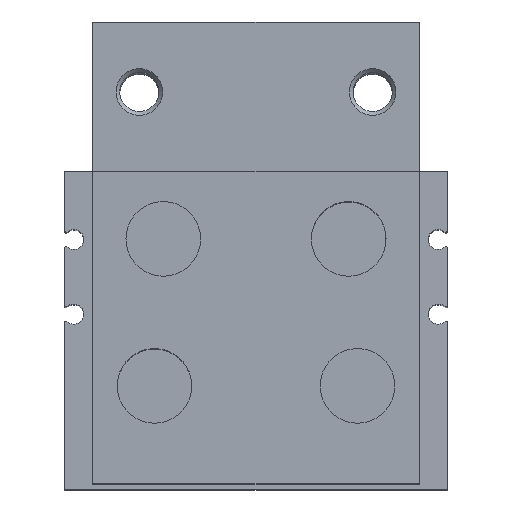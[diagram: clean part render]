
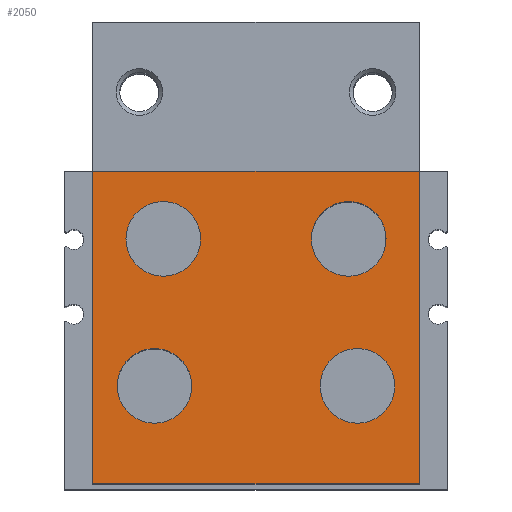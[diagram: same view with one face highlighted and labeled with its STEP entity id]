
A CAD part, top view. The second image highlights one B-rep face of the part: STEP entity #2050.
In plain terms, the highlighted planar face has unit normal (0, 0, 1).
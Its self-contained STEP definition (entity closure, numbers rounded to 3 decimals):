
#94=LINE('',#3282,#220);
#96=LINE('',#3286,#222);
#104=LINE('',#3306,#230);
#105=LINE('',#3307,#231);
#220=VECTOR('',#2569,1000.);
#222=VECTOR('',#2573,1000.);
#230=VECTOR('',#2591,1000.);
#231=VECTOR('',#2592,1000.);
#340=PLANE('',#2229);
#420=FACE_BOUND('',#672,.T.);
#421=FACE_BOUND('',#673,.T.);
#422=FACE_BOUND('',#674,.T.);
#423=FACE_BOUND('',#675,.T.);
#510=FACE_OUTER_BOUND('',#671,.T.);
#671=EDGE_LOOP('',(#1472,#1473,#1474,#1475));
#672=EDGE_LOOP('',(#1476));
#673=EDGE_LOOP('',(#1477));
#674=EDGE_LOOP('',(#1478));
#675=EDGE_LOOP('',(#1479));
#854=CIRCLE('',#2230,8.);
#855=CIRCLE('',#2231,8.);
#856=CIRCLE('',#2232,8.);
#857=CIRCLE('',#2233,8.);
#982=VERTEX_POINT('',#3279);
#983=VERTEX_POINT('',#3281);
#984=VERTEX_POINT('',#3285);
#991=VERTEX_POINT('',#3305);
#992=VERTEX_POINT('',#3308);
#993=VERTEX_POINT('',#3310);
#994=VERTEX_POINT('',#3312);
#995=VERTEX_POINT('',#3314);
#1175=EDGE_CURVE('',#983,#982,#94,.T.);
#1177=EDGE_CURVE('',#983,#984,#96,.T.);
#1187=EDGE_CURVE('',#982,#991,#104,.T.);
#1188=EDGE_CURVE('',#984,#991,#105,.T.);
#1189=EDGE_CURVE('',#992,#992,#854,.T.);
#1190=EDGE_CURVE('',#993,#993,#855,.F.);
#1191=EDGE_CURVE('',#994,#994,#856,.F.);
#1192=EDGE_CURVE('',#995,#995,#857,.T.);
#1472=ORIENTED_EDGE('',*,*,#1187,.T.);
#1473=ORIENTED_EDGE('',*,*,#1188,.F.);
#1474=ORIENTED_EDGE('',*,*,#1177,.F.);
#1475=ORIENTED_EDGE('',*,*,#1175,.T.);
#1476=ORIENTED_EDGE('',*,*,#1189,.F.);
#1477=ORIENTED_EDGE('',*,*,#1190,.F.);
#1478=ORIENTED_EDGE('',*,*,#1191,.F.);
#1479=ORIENTED_EDGE('',*,*,#1192,.F.);
#2050=ADVANCED_FACE('',(#510,#420,#421,#422,#423),#340,.F.);
#2229=AXIS2_PLACEMENT_3D('',#3304,#2589,#2590);
#2230=AXIS2_PLACEMENT_3D('',#3309,#2593,#2594);
#2231=AXIS2_PLACEMENT_3D('',#3311,#2595,#2596);
#2232=AXIS2_PLACEMENT_3D('',#3313,#2597,#2598);
#2233=AXIS2_PLACEMENT_3D('',#3315,#2599,#2600);
#2569=DIRECTION('',(1.,0.,0.));
#2573=DIRECTION('',(0.,1.,0.));
#2589=DIRECTION('center_axis',(0.,0.,
-1.));
#2590=DIRECTION('ref_axis',(1.,0.,0.));
#2591=DIRECTION('',(0.,1.,0.));
#2592=DIRECTION('',(1.,0.,0.));
#2593=DIRECTION('center_axis',(0.,0.,
1.));
#2594=DIRECTION('ref_axis',(-1.,0.,0.));
#2595=DIRECTION('center_axis',(0.,0.,
-1.));
#2596=DIRECTION('ref_axis',(1.,0.,0.));
#2597=DIRECTION('center_axis',(0.,0.,
-1.));
#2598=DIRECTION('ref_axis',(1.,0.,0.));
#2599=DIRECTION('center_axis',(0.,0.,
1.));
#2600=DIRECTION('ref_axis',(-1.,0.,0.));
#3279=CARTESIAN_POINT('',(35.,-33.,178.));
#3281=CARTESIAN_POINT('',(-35.,-33.,178.));
#3282=CARTESIAN_POINT('',(-35.,-33.,178.));
#3285=CARTESIAN_POINT('',(-35.,34.,178.));
#3286=CARTESIAN_POINT('',(-35.,-33.,178.));
#3304=CARTESIAN_POINT('Origin',(-35.,-33.,178.));
#3305=CARTESIAN_POINT('',(35.,34.,178.));
#3306=CARTESIAN_POINT('',(35.,-33.,178.));
#3307=CARTESIAN_POINT('',(-35.,34.,178.));
#3308=CARTESIAN_POINT('',(-29.755,-12.,178.));
#3309=CARTESIAN_POINT('Origin',(-21.755,-12.,178.));
#3310=CARTESIAN_POINT('',(29.755,-12.,178.));
#3311=CARTESIAN_POINT('Origin',(21.755,-12.,178.));
#3312=CARTESIAN_POINT('',(-11.865,19.5,178.));
#3313=CARTESIAN_POINT('Origin',(-19.865,19.5,178.));
#3314=CARTESIAN_POINT('',(11.865,19.5,178.));
#3315=CARTESIAN_POINT('Origin',(19.865,19.5,178.));
